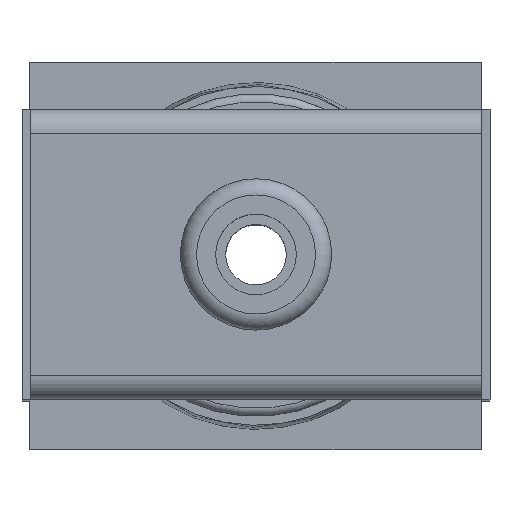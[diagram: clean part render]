
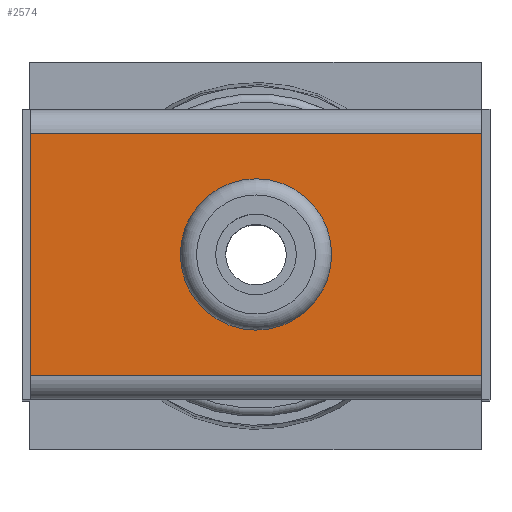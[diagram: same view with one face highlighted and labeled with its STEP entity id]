
A CAD part, top view. The second image highlights one B-rep face of the part: STEP entity #2574.
In plain terms, the highlighted planar face has unit normal (0, 0, 1).
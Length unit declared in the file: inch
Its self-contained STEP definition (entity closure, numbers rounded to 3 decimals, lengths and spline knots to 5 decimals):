
#117=FACE_BOUND('',#508,.T.);
#118=FACE_BOUND('',#509,.T.);
#196=CIRCLE('',#2751,0.75);
#508=EDGE_LOOP('',(#1751));
#509=EDGE_LOOP('',(#1752,#1753,#1754,#1755));
#732=LINE('',#3718,#904);
#748=LINE('',#3759,#920);
#763=LINE('',#3794,#935);
#765=LINE('',#3797,#937);
#904=VECTOR('',#3059,7.);
#920=VECTOR('',#3101,7.);
#935=VECTOR('',#3140,3.75);
#937=VECTOR('',#3144,3.75);
#1066=VERTEX_POINT('',#3709);
#1069=VERTEX_POINT('',#3715);
#1070=VERTEX_POINT('',#3717);
#1081=VERTEX_POINT('',#3756);
#1082=VERTEX_POINT('',#3758);
#1306=EDGE_CURVE('',#1066,#1066,#196,.T.);
#1309=EDGE_CURVE('',#1070,#1069,#732,.T.);
#1329=EDGE_CURVE('',#1082,#1081,#748,.T.);
#1347=EDGE_CURVE('',#1069,#1082,#763,.T.);
#1349=EDGE_CURVE('',#1081,#1070,#765,.T.);
#1751=ORIENTED_EDGE('',*,*,#1306,.T.);
#1752=ORIENTED_EDGE('',*,*,#1329,.T.);
#1753=ORIENTED_EDGE('',*,*,#1349,.T.);
#1754=ORIENTED_EDGE('',*,*,#1309,.T.);
#1755=ORIENTED_EDGE('',*,*,#1347,.T.);
#2290=PLANE('',#2779);
#2574=ADVANCED_FACE('',(#117,#118),#2290,.F.);
#2751=AXIS2_PLACEMENT_3D('',#3710,#3052,#3053);
#2779=AXIS2_PLACEMENT_3D('',#3796,#3142,#3143);
#3052=DIRECTION('center_axis',(0.,0.,
-1.));
#3053=DIRECTION('ref_axis',(1.,0.,0.));
#3059=DIRECTION('',(-1.,0.,0.));
#3101=DIRECTION('',(1.,0.,0.));
#3140=DIRECTION('',(0.,-1.,0.));
#3142=DIRECTION('center_axis',(0.,0.,
-1.));
#3143=DIRECTION('ref_axis',(-1.,0.,0.));
#3144=DIRECTION('',(0.,1.,0.));
#3709=CARTESIAN_POINT('',(0.75,0.,0.));
#3710=CARTESIAN_POINT('Origin',(0.,0.,
0.));
#3715=CARTESIAN_POINT('',(-3.5,1.875,0.));
#3717=CARTESIAN_POINT('',(3.5,1.875,0.));
#3718=CARTESIAN_POINT('',(1.75,1.875,0.));
#3756=CARTESIAN_POINT('',(3.5,-1.875,0.));
#3758=CARTESIAN_POINT('',(-3.5,-1.875,0.));
#3759=CARTESIAN_POINT('',(-1.75,-1.875,0.));
#3794=CARTESIAN_POINT('',(-3.5,2.25,0.));
#3796=CARTESIAN_POINT('Origin',(0.,0.,
0.));
#3797=CARTESIAN_POINT('',(3.5,-2.25,0.));
